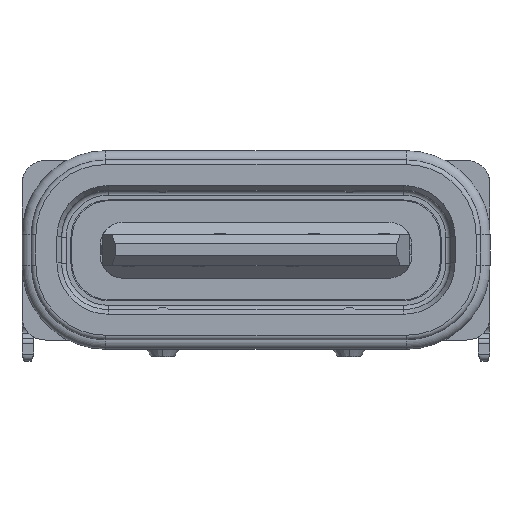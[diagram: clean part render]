
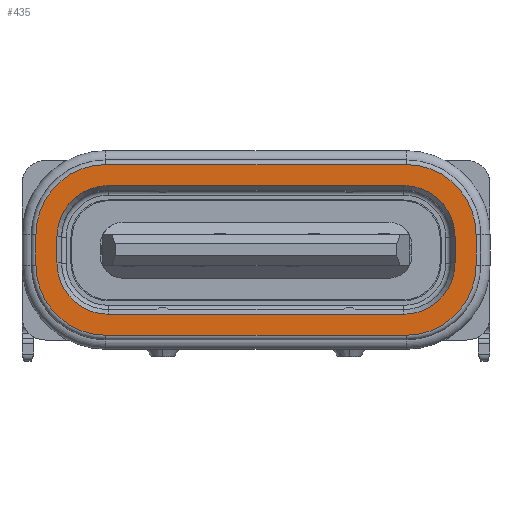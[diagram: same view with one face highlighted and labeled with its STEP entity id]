
A CAD part, top view. The second image highlights one B-rep face of the part: STEP entity #435.
In plain terms, the highlighted planar face has unit normal (0, 0, 1).
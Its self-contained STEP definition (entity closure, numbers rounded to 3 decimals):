
#75 = CARTESIAN_POINT ( 'NONE',  ( -25.141, -32.647, 73.967 ) ) ;
#352 = VERTEX_POINT ( 'NONE', #16847 ) ;
#408 = FACE_BOUND ( 'NONE', #22298, .T. ) ;
#435 = ADVANCED_FACE ( 'NONE', ( #822, #408 ), #17837, .T. ) ;
#436 = DIRECTION ( 'NONE',  ( 1., 0., 0. ) ) ;
#591 = EDGE_CURVE ( 'NONE', #23804, #4686, #26804, .T. ) ;
#822 = FACE_OUTER_BOUND ( 'NONE', #20672, .T. ) ;
#1257 = VECTOR ( 'NONE', #7536, 1000. ) ;
#1857 = EDGE_CURVE ( 'NONE', #4987, #26398, #14989, .T. ) ;
#1908 = VERTEX_POINT ( 'NONE', #19474 ) ;
#2004 = EDGE_CURVE ( 'NONE', #10911, #8409, #24124, .T. ) ;
#2105 = AXIS2_PLACEMENT_3D ( 'NONE', #8034, #18851, #16611 ) ;
#2530 = DIRECTION ( 'NONE',  ( 0., 0., -1. ) ) ;
#2655 = CARTESIAN_POINT ( 'NONE',  ( -25.141, -32.46, 73.967 ) ) ;
#2796 = EDGE_CURVE ( 'NONE', #4686, #24882, #10303, .T. ) ;
#3091 = AXIS2_PLACEMENT_3D ( 'NONE', #22493, #7596, #3358 ) ;
#3092 = VERTEX_POINT ( 'NONE', #25522 ) ;
#3099 = EDGE_CURVE ( 'NONE', #24882, #10396, #6275, .T. ) ;
#3358 = DIRECTION ( 'NONE',  ( 0., -1., 0. ) ) ;
#3867 = AXIS2_PLACEMENT_3D ( 'NONE', #13215, #2530, #436 ) ;
#3961 = CARTESIAN_POINT ( 'NONE',  ( -23.713, -31.147, 73.967 ) ) ;
#4014 = VECTOR ( 'NONE', #4570, 1000. ) ;
#4229 = EDGE_CURVE ( 'NONE', #3092, #4987, #7585, .T. ) ;
#4558 = CARTESIAN_POINT ( 'NONE',  ( -25.213, -31.147, 73.967 ) ) ;
#4570 = DIRECTION ( 'NONE',  ( -1., 0., 0. ) ) ;
#4686 = VERTEX_POINT ( 'NONE', #10592 ) ;
#4836 = AXIS2_PLACEMENT_3D ( 'NONE', #20375, #11946, #5603 ) ;
#4987 = VERTEX_POINT ( 'NONE', #23479 ) ;
#5005 = EDGE_CURVE ( 'NONE', #10396, #18305, #22412, .T. ) ;
#5488 = ORIENTED_EDGE ( 'NONE', *, *, #1857, .T. ) ;
#5501 = ORIENTED_EDGE ( 'NONE', *, *, #5005, .F. ) ;
#5603 = DIRECTION ( 'NONE',  ( 0., 1., 0. ) ) ;
#5607 = VECTOR ( 'NONE', #23843, 1000. ) ;
#5671 = CARTESIAN_POINT ( 'NONE',  ( -16.223, -30.537, 73.967 ) ) ;
#6259 = CARTESIAN_POINT ( 'NONE',  ( -15.773, -30.487, 73.967 ) ) ;
#6275 = LINE ( 'NONE', #75, #4014 ) ;
#6352 = DIRECTION ( 'NONE',  ( -1., 0., 0. ) ) ;
#6995 = CARTESIAN_POINT ( 'NONE',  ( -25.141, -28.987, 73.967 ) ) ;
#7271 = EDGE_CURVE ( 'NONE', #23113, #1908, #19116, .T. ) ;
#7295 = DIRECTION ( 'NONE',  ( 1., 0., 0. ) ) ;
#7536 = DIRECTION ( 'NONE',  ( 0., -1., 0. ) ) ;
#7564 = DIRECTION ( 'NONE',  ( 0., -1., 0. ) ) ;
#7585 = CIRCLE ( 'NONE', #3091, 1.1 ) ;
#7590 = AXIS2_PLACEMENT_3D ( 'NONE', #9421, #26546, #7295 ) ;
#7596 = DIRECTION ( 'NONE',  ( 0., 0., -1. ) ) ;
#7598 = AXIS2_PLACEMENT_3D ( 'NONE', #3961, #13090, #10834 ) ;
#7687 = CARTESIAN_POINT ( 'NONE',  ( -23.713, -32.647, 73.967 ) ) ;
#8034 = CARTESIAN_POINT ( 'NONE',  ( -17.273, -30.487, 73.967 ) ) ;
#8297 = VERTEX_POINT ( 'NONE', #5671 ) ;
#8409 = VERTEX_POINT ( 'NONE', #25622 ) ;
#8607 = LINE ( 'NONE', #15355, #19523 ) ;
#8718 = ORIENTED_EDGE ( 'NONE', *, *, #2796, .F. ) ;
#8841 = EDGE_CURVE ( 'NONE', #1908, #17191, #21751, .T. ) ;
#9421 = CARTESIAN_POINT ( 'NONE',  ( -17.273, -31.147, 73.967 ) ) ;
#10085 = ORIENTED_EDGE ( 'NONE', *, *, #21015, .T. ) ;
#10280 = AXIS2_PLACEMENT_3D ( 'NONE', #25606, #25466, #6352 ) ;
#10303 = CIRCLE ( 'NONE', #7590, 1.5 ) ;
#10396 = VERTEX_POINT ( 'NONE', #7687 ) ;
#10591 = CARTESIAN_POINT ( 'NONE',  ( -17.323, -32.197, 73.967 ) ) ;
#10592 = CARTESIAN_POINT ( 'NONE',  ( -15.773, -31.147, 73.967 ) ) ;
#10739 = DIRECTION ( 'NONE',  ( -1., 0., 0. ) ) ;
#10834 = DIRECTION ( 'NONE',  ( 1., 0., 0. ) ) ;
#10861 = LINE ( 'NONE', #10591, #20570 ) ;
#10911 = VERTEX_POINT ( 'NONE', #14128 ) ;
#11295 = ORIENTED_EDGE ( 'NONE', *, *, #22483, .T. ) ;
#11492 = EDGE_CURVE ( 'NONE', #26398, #10911, #14786, .T. ) ;
#11946 = DIRECTION ( 'NONE',  ( 0., 0., -1. ) ) ;
#13004 = CARTESIAN_POINT ( 'NONE',  ( -16.223, -31.097, 73.967 ) ) ;
#13018 = ORIENTED_EDGE ( 'NONE', *, *, #11492, .T. ) ;
#13090 = DIRECTION ( 'NONE',  ( 0., 0., -1. ) ) ;
#13215 = CARTESIAN_POINT ( 'NONE',  ( -23.713, -30.487, 73.967 ) ) ;
#13259 = DIRECTION ( 'NONE',  ( 0., 0., -1. ) ) ;
#13320 = AXIS2_PLACEMENT_3D ( 'NONE', #2655, #17419, #26114 ) ;
#13468 = ORIENTED_EDGE ( 'NONE', *, *, #20073, .F. ) ;
#13551 = DIRECTION ( 'NONE',  ( 1., 0., 0. ) ) ;
#13573 = EDGE_CURVE ( 'NONE', #18305, #23113, #8607, .T. ) ;
#14128 = CARTESIAN_POINT ( 'NONE',  ( -23.663, -29.437, 73.967 ) ) ;
#14270 = CIRCLE ( 'NONE', #4836, 1.1 ) ;
#14580 = CARTESIAN_POINT ( 'NONE',  ( -24.763, -31.097, 73.967 ) ) ;
#14786 = CIRCLE ( 'NONE', #10280, 1.1 ) ;
#14989 = LINE ( 'NONE', #14580, #27592 ) ;
#15355 = CARTESIAN_POINT ( 'NONE',  ( -25.213, -32.46, 73.967 ) ) ;
#15604 = CIRCLE ( 'NONE', #21431, 1.1 ) ;
#16547 = ORIENTED_EDGE ( 'NONE', *, *, #7271, .F. ) ;
#16611 = DIRECTION ( 'NONE',  ( 1., 0., 0. ) ) ;
#16847 = CARTESIAN_POINT ( 'NONE',  ( -17.323, -32.197, 73.967 ) ) ;
#17191 = VERTEX_POINT ( 'NONE', #21805 ) ;
#17397 = ORIENTED_EDGE ( 'NONE', *, *, #591, .F. ) ;
#17419 = DIRECTION ( 'NONE',  ( 0., 0., 1. ) ) ;
#17553 = DIRECTION ( 'NONE',  ( 1., 0., 0. ) ) ;
#17815 = VECTOR ( 'NONE', #7564, 1000. ) ;
#17837 = PLANE ( 'NONE',  #13320 ) ;
#17847 = CARTESIAN_POINT ( 'NONE',  ( -25.213, -30.487, 73.967 ) ) ;
#18286 = ORIENTED_EDGE ( 'NONE', *, *, #8841, .F. ) ;
#18305 = VERTEX_POINT ( 'NONE', #4558 ) ;
#18353 = LINE ( 'NONE', #26629, #1257 ) ;
#18851 = DIRECTION ( 'NONE',  ( 0., 0., -1. ) ) ;
#19050 = ORIENTED_EDGE ( 'NONE', *, *, #2004, .T. ) ;
#19116 = CIRCLE ( 'NONE', #3867, 1.5 ) ;
#19474 = CARTESIAN_POINT ( 'NONE',  ( -23.713, -28.987, 73.967 ) ) ;
#19523 = VECTOR ( 'NONE', #19715, 1000. ) ;
#19715 = DIRECTION ( 'NONE',  ( 0., 1., 0. ) ) ;
#19778 = ORIENTED_EDGE ( 'NONE', *, *, #21692, .T. ) ;
#19779 = CARTESIAN_POINT ( 'NONE',  ( -23.663, -29.437, 73.967 ) ) ;
#20000 = CARTESIAN_POINT ( 'NONE',  ( -17.323, -31.097, 73.967 ) ) ;
#20073 = EDGE_CURVE ( 'NONE', #17191, #23804, #26361, .T. ) ;
#20375 = CARTESIAN_POINT ( 'NONE',  ( -17.323, -30.537, 73.967 ) ) ;
#20570 = VECTOR ( 'NONE', #10739, 1000. ) ;
#20672 = EDGE_LOOP ( 'NONE', ( #18286, #16547, #26176, #5501, #26249, #8718, #17397, #13468 ) ) ;
#20825 = VERTEX_POINT ( 'NONE', #13004 ) ;
#21015 = EDGE_CURVE ( 'NONE', #352, #3092, #10861, .T. ) ;
#21054 = DIRECTION ( 'NONE',  ( 0., 1., 0. ) ) ;
#21177 = EDGE_CURVE ( 'NONE', #20825, #352, #15604, .T. ) ;
#21431 = AXIS2_PLACEMENT_3D ( 'NONE', #20000, #13259, #13551 ) ;
#21692 = EDGE_CURVE ( 'NONE', #8409, #8297, #14270, .T. ) ;
#21744 = VECTOR ( 'NONE', #17553, 1000. ) ;
#21751 = LINE ( 'NONE', #6995, #21744 ) ;
#21805 = CARTESIAN_POINT ( 'NONE',  ( -17.273, -28.987, 73.967 ) ) ;
#22298 = EDGE_LOOP ( 'NONE', ( #5488, #13018, #19050, #19778, #11295, #25307, #10085, #23329 ) ) ;
#22334 = CARTESIAN_POINT ( 'NONE',  ( -15.773, -32.46, 73.967 ) ) ;
#22412 = CIRCLE ( 'NONE', #7598, 1.5 ) ;
#22483 = EDGE_CURVE ( 'NONE', #8297, #20825, #18353, .T. ) ;
#22493 = CARTESIAN_POINT ( 'NONE',  ( -23.663, -31.097, 73.967 ) ) ;
#22639 = CARTESIAN_POINT ( 'NONE',  ( -17.273, -32.647, 73.967 ) ) ;
#23113 = VERTEX_POINT ( 'NONE', #17847 ) ;
#23176 = CARTESIAN_POINT ( 'NONE',  ( -24.763, -30.537, 73.967 ) ) ;
#23329 = ORIENTED_EDGE ( 'NONE', *, *, #4229, .T. ) ;
#23479 = CARTESIAN_POINT ( 'NONE',  ( -24.763, -31.097, 73.967 ) ) ;
#23804 = VERTEX_POINT ( 'NONE', #6259 ) ;
#23843 = DIRECTION ( 'NONE',  ( 1., 0., 0. ) ) ;
#24124 = LINE ( 'NONE', #19779, #5607 ) ;
#24882 = VERTEX_POINT ( 'NONE', #22639 ) ;
#25307 = ORIENTED_EDGE ( 'NONE', *, *, #21177, .T. ) ;
#25466 = DIRECTION ( 'NONE',  ( 0., 0., -1. ) ) ;
#25522 = CARTESIAN_POINT ( 'NONE',  ( -23.663, -32.197, 73.967 ) ) ;
#25606 = CARTESIAN_POINT ( 'NONE',  ( -23.663, -30.537, 73.967 ) ) ;
#25622 = CARTESIAN_POINT ( 'NONE',  ( -17.323, -29.437, 73.967 ) ) ;
#26114 = DIRECTION ( 'NONE',  ( 0., -1., 0. ) ) ;
#26176 = ORIENTED_EDGE ( 'NONE', *, *, #13573, .F. ) ;
#26249 = ORIENTED_EDGE ( 'NONE', *, *, #3099, .F. ) ;
#26361 = CIRCLE ( 'NONE', #2105, 1.5 ) ;
#26398 = VERTEX_POINT ( 'NONE', #23176 ) ;
#26546 = DIRECTION ( 'NONE',  ( 0., 0., -1. ) ) ;
#26629 = CARTESIAN_POINT ( 'NONE',  ( -16.223, -30.537, 73.967 ) ) ;
#26804 = LINE ( 'NONE', #22334, #17815 ) ;
#27592 = VECTOR ( 'NONE', #21054, 1000. ) ;
